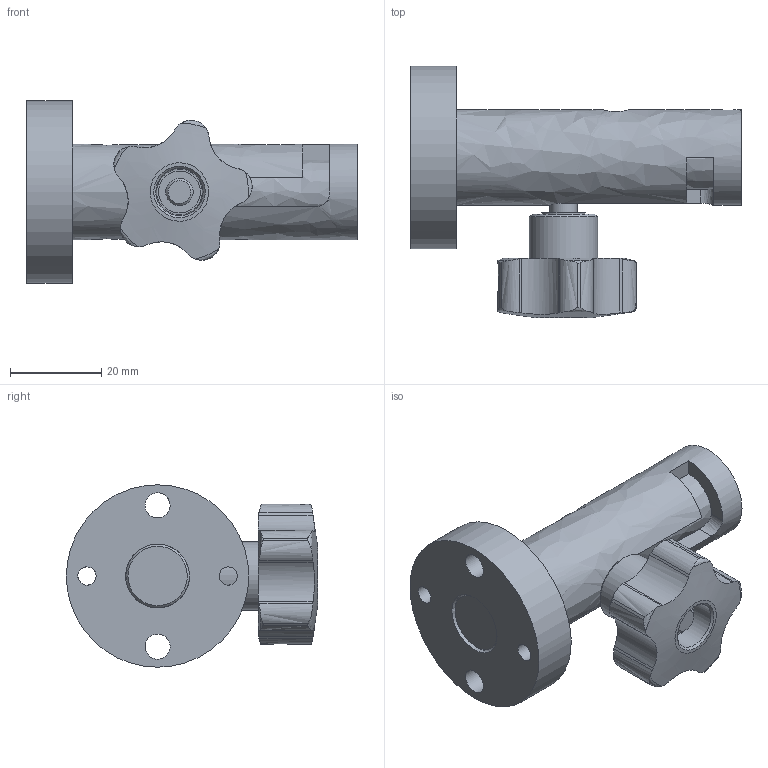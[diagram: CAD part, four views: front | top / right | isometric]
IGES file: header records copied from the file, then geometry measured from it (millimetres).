
Global section: file name: 24.00-DX; native system: Autodesk Inventor 2019; preprocessor: unknown; author: CAD5; date: 20201111.135522; units: millimetre
Bounding box: 72.5 x 55.1 x 40 mm (x, y, z)
Volume: 38588.5 mm3; surface area: 20508.6 mm2
Topology: 6 solids, 6 shells, 141 faces, 402 edges, 274 vertices
Faces by surface type: bspline 141
